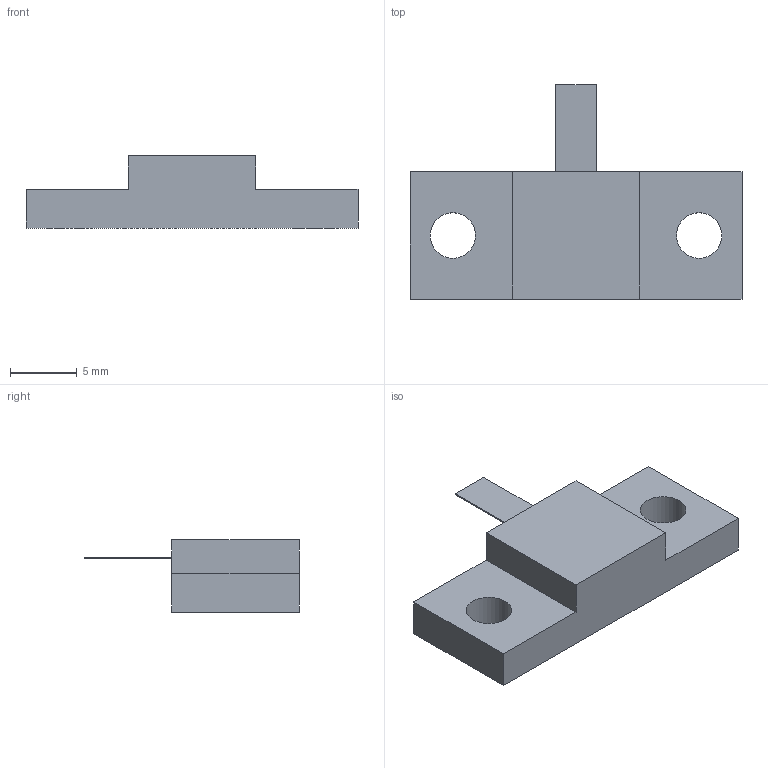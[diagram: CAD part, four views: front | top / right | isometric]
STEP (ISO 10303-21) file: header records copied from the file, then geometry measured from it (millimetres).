
FILE_DESCRIPTION(('STEP AP203'), '1');
FILE_NAME('P1-170-250-39', '', ('UNSPECIFIED'), ('UNSPECIFIED'), 'ASCON STEP Converter 1.6', 'ASCON Math Kernel', '');
FILE_SCHEMA(('CONFIG_CONTROL_DESIGN'));
Length unit declared in the file: millimetre
Bounding box: 24.8 x 16 x 5.4 mm (x, y, z)
Volume: 858.2 mm3; surface area: 831.1 mm2
Topology: 1 solids, 1 shells, 17 faces, 42 edges, 28 vertices
Faces by surface type: plane 15, cylinder 2
Full cylindrical faces by diameter (mm): 3.4 x2
Entity records: 678 total; most frequent: CARTESIAN_POINT 86, DIRECTION 80, ORIENTED_EDGE 80, EDGE_CURVE 40, LINE 36, VECTOR 36, VERTEX_POINT 28, EDGE_LOOP 24
